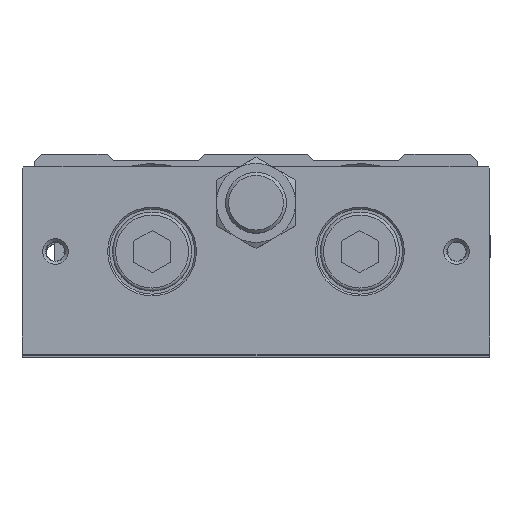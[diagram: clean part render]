
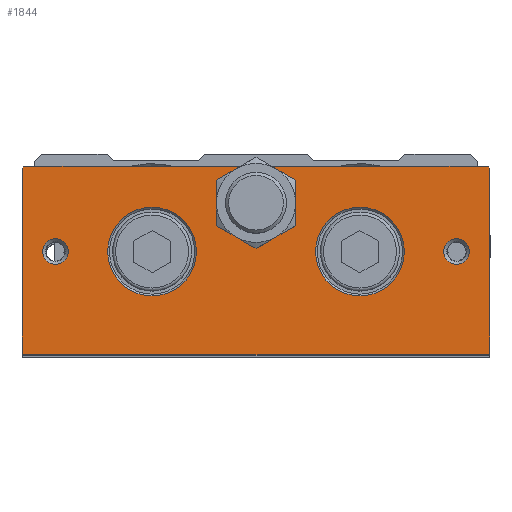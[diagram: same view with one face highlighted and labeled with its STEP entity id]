
A CAD part, top view. The second image highlights one B-rep face of the part: STEP entity #1844.
In plain terms, the highlighted planar face has unit normal (0, 0, 1).
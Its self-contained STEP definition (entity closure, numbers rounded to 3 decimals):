
#1642=CARTESIAN_POINT('',(-38.2,-17.5,154.0));
#1643=VERTEX_POINT('',#1642);
#1650=CARTESIAN_POINT('',(-38.5,-17.2,154.0));
#1651=VERTEX_POINT('',#1650);
#1652=CARTESIAN_POINT('',(-38.2,-17.5,154.0));
#1653=DIRECTION('',(-0.707,0.707,0.0));
#1654=VECTOR('',#1653,0.424);
#1655=LINE('',#1652,#1654);
#1656=EDGE_CURVE('',#1643,#1651,#1655,.T.);
#1667=CARTESIAN_POINT('',(0.0,-17.5,154.0));
#1668=DIRECTION('',(0.0,0.0,1.0));
#1669=DIRECTION('',(1.0,0.0,0.0));
#1670=AXIS2_PLACEMENT_3D('',#1667,#1668,#1669);
#1671=PLANE('',#1670);
#1672=ORIENTED_EDGE('',*,*,#1656,.F.);
#1673=CARTESIAN_POINT('',(38.2,-17.5,154.0));
#1674=VERTEX_POINT('',#1673);
#1675=CARTESIAN_POINT('',(-38.2,-17.5,154.0));
#1676=DIRECTION('',(1.0,0.0,0.0));
#1677=VECTOR('',#1676,76.4);
#1678=LINE('',#1675,#1677);
#1679=EDGE_CURVE('',#1643,#1674,#1678,.T.);
#1680=ORIENTED_EDGE('',*,*,#1679,.T.);
#1681=CARTESIAN_POINT('',(38.5,-17.2,154.0));
#1682=VERTEX_POINT('',#1681);
#1683=CARTESIAN_POINT('',(38.5,-17.2,154.0));
#1684=DIRECTION('',(-0.707,-0.707,0.0));
#1685=VECTOR('',#1684,0.424);
#1686=LINE('',#1683,#1685);
#1687=EDGE_CURVE('',#1682,#1674,#1686,.T.);
#1688=ORIENTED_EDGE('',*,*,#1687,.F.);
#1689=CARTESIAN_POINT('',(38.5,13.2,154.0));
#1690=VERTEX_POINT('',#1689);
#1691=CARTESIAN_POINT('',(38.5,-17.2,154.0));
#1692=DIRECTION('',(0.0,1.0,0.0));
#1693=VECTOR('',#1692,30.4);
#1694=LINE('',#1691,#1693);
#1695=EDGE_CURVE('',#1682,#1690,#1694,.T.);
#1696=ORIENTED_EDGE('',*,*,#1695,.T.);
#1697=CARTESIAN_POINT('',(38.2,13.5,154.0));
#1698=VERTEX_POINT('',#1697);
#1699=CARTESIAN_POINT('',(38.2,13.5,154.0));
#1700=DIRECTION('',(0.707,-0.707,0.0));
#1701=VECTOR('',#1700,0.424);
#1702=LINE('',#1699,#1701);
#1703=EDGE_CURVE('',#1698,#1690,#1702,.T.);
#1704=ORIENTED_EDGE('',*,*,#1703,.F.);
#1705=CARTESIAN_POINT('',(2.5,13.5,154.0));
#1706=VERTEX_POINT('',#1705);
#1707=CARTESIAN_POINT('',(38.2,13.5,154.0));
#1708=DIRECTION('',(-1.0,0.0,0.0));
#1709=VECTOR('',#1708,35.7);
#1710=LINE('',#1707,#1709);
#1711=EDGE_CURVE('',#1698,#1706,#1710,.T.);
#1712=ORIENTED_EDGE('',*,*,#1711,.T.);
#1713=CARTESIAN_POINT('',(3.25,13.129,154.0));
#1714=VERTEX_POINT('',#1713);
#1715=CARTESIAN_POINT('',(0.0,7.5,154.0));
#1716=DIRECTION('',(0.0,0.0,1.0));
#1717=DIRECTION('',(0.0,1.0,0.0));
#1718=AXIS2_PLACEMENT_3D('',#1715,#1716,#1717);
#1719=CIRCLE('',#1718,6.5);
#1720=EDGE_CURVE('',#1714,#1706,#1719,.T.);
#1721=ORIENTED_EDGE('',*,*,#1720,.F.);
#1722=CARTESIAN_POINT('',(6.5,7.5,154.0));
#1723=VERTEX_POINT('',#1722);
#1724=CARTESIAN_POINT('',(0.0,7.5,154.0));
#1725=DIRECTION('',(0.0,0.0,1.0));
#1726=DIRECTION('',(0.0,1.0,0.0));
#1727=AXIS2_PLACEMENT_3D('',#1724,#1725,#1726);
#1728=CIRCLE('',#1727,6.5);
#1729=EDGE_CURVE('',#1723,#1714,#1728,.T.);
#1730=ORIENTED_EDGE('',*,*,#1729,.F.);
#1731=CARTESIAN_POINT('',(3.25,1.871,154.0));
#1732=VERTEX_POINT('',#1731);
#1733=CARTESIAN_POINT('',(0.0,7.5,154.0));
#1734=DIRECTION('',(0.0,0.0,1.0));
#1735=DIRECTION('',(0.0,1.0,0.0));
#1736=AXIS2_PLACEMENT_3D('',#1733,#1734,#1735);
#1737=CIRCLE('',#1736,6.5);
#1738=EDGE_CURVE('',#1732,#1723,#1737,.T.);
#1739=ORIENTED_EDGE('',*,*,#1738,.F.);
#1740=CARTESIAN_POINT('',(-3.25,1.871,154.0));
#1741=VERTEX_POINT('',#1740);
#1742=CARTESIAN_POINT('',(0.0,7.5,154.0));
#1743=DIRECTION('',(0.0,0.0,1.0));
#1744=DIRECTION('',(0.0,1.0,0.0));
#1745=AXIS2_PLACEMENT_3D('',#1742,#1743,#1744);
#1746=CIRCLE('',#1745,6.5);
#1747=EDGE_CURVE('',#1741,#1732,#1746,.T.);
#1748=ORIENTED_EDGE('',*,*,#1747,.F.);
#1749=CARTESIAN_POINT('',(-6.5,7.5,154.0));
#1750=VERTEX_POINT('',#1749);
#1751=CARTESIAN_POINT('',(0.0,7.5,154.0));
#1752=DIRECTION('',(0.0,0.0,1.0));
#1753=DIRECTION('',(0.0,1.0,0.0));
#1754=AXIS2_PLACEMENT_3D('',#1751,#1752,#1753);
#1755=CIRCLE('',#1754,6.5);
#1756=EDGE_CURVE('',#1750,#1741,#1755,.T.);
#1757=ORIENTED_EDGE('',*,*,#1756,.F.);
#1758=CARTESIAN_POINT('',(-3.25,13.129,154.0));
#1759=VERTEX_POINT('',#1758);
#1760=CARTESIAN_POINT('',(0.0,7.5,154.0));
#1761=DIRECTION('',(0.0,0.0,1.0));
#1762=DIRECTION('',(0.0,1.0,0.0));
#1763=AXIS2_PLACEMENT_3D('',#1760,#1761,#1762);
#1764=CIRCLE('',#1763,6.5);
#1765=EDGE_CURVE('',#1759,#1750,#1764,.T.);
#1766=ORIENTED_EDGE('',*,*,#1765,.F.);
#1767=CARTESIAN_POINT('',(-2.5,13.5,154.0));
#1768=VERTEX_POINT('',#1767);
#1769=CARTESIAN_POINT('',(0.0,7.5,154.0));
#1770=DIRECTION('',(0.0,0.0,1.0));
#1771=DIRECTION('',(0.0,1.0,0.0));
#1772=AXIS2_PLACEMENT_3D('',#1769,#1770,#1771);
#1773=CIRCLE('',#1772,6.5);
#1774=EDGE_CURVE('',#1768,#1759,#1773,.T.);
#1775=ORIENTED_EDGE('',*,*,#1774,.F.);
#1776=CARTESIAN_POINT('',(-38.2,13.5,154.0));
#1777=VERTEX_POINT('',#1776);
#1778=CARTESIAN_POINT('',(-2.5,13.5,154.0));
#1779=DIRECTION('',(-1.0,0.0,0.0));
#1780=VECTOR('',#1779,35.7);
#1781=LINE('',#1778,#1780);
#1782=EDGE_CURVE('',#1768,#1777,#1781,.T.);
#1783=ORIENTED_EDGE('',*,*,#1782,.T.);
#1784=CARTESIAN_POINT('',(-38.5,13.2,154.0));
#1785=VERTEX_POINT('',#1784);
#1786=CARTESIAN_POINT('',(-38.5,13.2,154.0));
#1787=DIRECTION('',(0.707,0.707,0.0));
#1788=VECTOR('',#1787,0.424);
#1789=LINE('',#1786,#1788);
#1790=EDGE_CURVE('',#1785,#1777,#1789,.T.);
#1791=ORIENTED_EDGE('',*,*,#1790,.F.);
#1792=CARTESIAN_POINT('',(-38.5,13.2,154.0));
#1793=DIRECTION('',(0.0,-1.0,0.0));
#1794=VECTOR('',#1793,30.4);
#1795=LINE('',#1792,#1794);
#1796=EDGE_CURVE('',#1785,#1651,#1795,.T.);
#1797=ORIENTED_EDGE('',*,*,#1796,.T.);
#1798=EDGE_LOOP('',(#1672,#1680,#1688,#1696,#1704,#1712,#1721,#1730,#1739,#1748,#1757,#1766,#1775,#1783,#1791,#1797));
#1799=FACE_OUTER_BOUND('',#1798,.T.);
#1800=CARTESIAN_POINT('',(-9.8,-0.5,154.0));
#1801=VERTEX_POINT('',#1800);
#1802=CARTESIAN_POINT('',(-17.1,-0.5,154.0));
#1803=DIRECTION('',(0.0,0.0,1.0));
#1804=DIRECTION('',(-1.0,0.0,0.0));
#1805=AXIS2_PLACEMENT_3D('',#1802,#1803,#1804);
#1806=CIRCLE('',#1805,7.3);
#1807=EDGE_CURVE('',#1801,#1801,#1806,.T.);
#1808=ORIENTED_EDGE('',*,*,#1807,.F.);
#1809=EDGE_LOOP('',(#1808));
#1810=FACE_BOUND('',#1809,.T.);
#1811=CARTESIAN_POINT('',(35.121,-0.5,154.0));
#1812=VERTEX_POINT('',#1811);
#1813=CARTESIAN_POINT('',(33.0,-0.5,154.0));
#1814=DIRECTION('',(0.0,0.0,1.0));
#1815=DIRECTION('',(-1.0,0.0,0.0));
#1816=AXIS2_PLACEMENT_3D('',#1813,#1814,#1815);
#1817=CIRCLE('',#1816,2.121);
#1818=EDGE_CURVE('',#1812,#1812,#1817,.T.);
#1819=ORIENTED_EDGE('',*,*,#1818,.F.);
#1820=EDGE_LOOP('',(#1819));
#1821=FACE_BOUND('',#1820,.T.);
#1822=CARTESIAN_POINT('',(-30.879,-0.5,154.0));
#1823=VERTEX_POINT('',#1822);
#1824=CARTESIAN_POINT('',(-33.0,-0.5,154.0));
#1825=DIRECTION('',(0.0,0.0,1.0));
#1826=DIRECTION('',(-1.0,0.0,0.0));
#1827=AXIS2_PLACEMENT_3D('',#1824,#1825,#1826);
#1828=CIRCLE('',#1827,2.121);
#1829=EDGE_CURVE('',#1823,#1823,#1828,.T.);
#1830=ORIENTED_EDGE('',*,*,#1829,.F.);
#1831=EDGE_LOOP('',(#1830));
#1832=FACE_BOUND('',#1831,.T.);
#1833=CARTESIAN_POINT('',(24.4,-0.5,154.0));
#1834=VERTEX_POINT('',#1833);
#1835=CARTESIAN_POINT('',(17.1,-0.5,154.0));
#1836=DIRECTION('',(0.0,0.0,1.0));
#1837=DIRECTION('',(-1.0,0.0,0.0));
#1838=AXIS2_PLACEMENT_3D('',#1835,#1836,#1837);
#1839=CIRCLE('',#1838,7.3);
#1840=EDGE_CURVE('',#1834,#1834,#1839,.T.);
#1841=ORIENTED_EDGE('',*,*,#1840,.F.);
#1842=EDGE_LOOP('',(#1841));
#1843=FACE_BOUND('',#1842,.T.);
#1844=ADVANCED_FACE('',(#1799,#1810,#1821,#1832,#1843),#1671,.T.);
